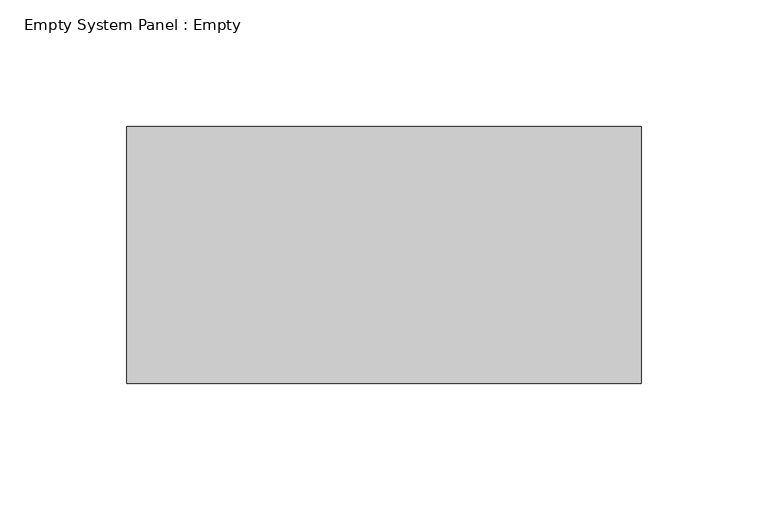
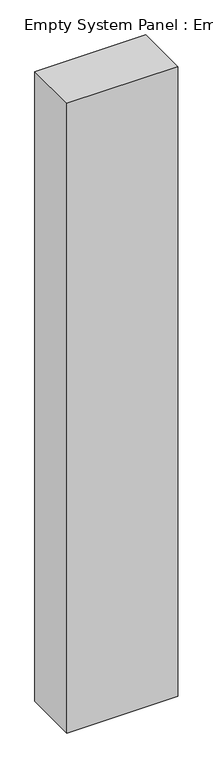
"""IFC4 building model written with IfcOpenShell, lengths in millimetres: plate geometry, Empty System Panel : Empty."""

from ifc_helpers import new_model, si_unit, origin, origin_with_axes, place, context, project, spatial, polyline, outline, extrude, source, transform, mapped, element, save


def empty_system_panel_empty_21f01610(model_context):
    return source(origin(), model_context, "Body", "SweptSolid", [
        extrude(outline(polyline([(101.6, -50.8), (-101.6, -50.8), (-101.6, 50.8), (101.6, 50.8), (101.6, -50.8)])), origin_with_axes(), (0.0, 0.0, 1.0), 1219.2),
    ])


if __name__ == "__main__":
    model = new_model("IFC4")
    model_context = context("Model", 3, world=origin())
    ifc_project = project(units=[si_unit("LENGTHUNIT", "METRE", prefix="MILLI")], contexts=[model_context])
    site = spatial("IfcSite", under=ifc_project)
    building = spatial("IfcBuilding", under=site)
    placement = place(None, origin())
    empty_system_panel_empty_shape = empty_system_panel_empty_21f01610(model_context)
    element("IfcPlate", 1, ObjectType="Empty System Panel : Empty", at=placement, inside=building, context=model_context, shape_type="MappedRepresentation", body=[
        mapped(empty_system_panel_empty_shape, transform((0.0, 0.0, 0.0), x_axis=(1.0, 0.0, 0.0), y_axis=(0.0, 1.0, 0.0), z_axis=(0.0, 0.0, 1.0))),
    ])
    save(model, "model.ifc")
